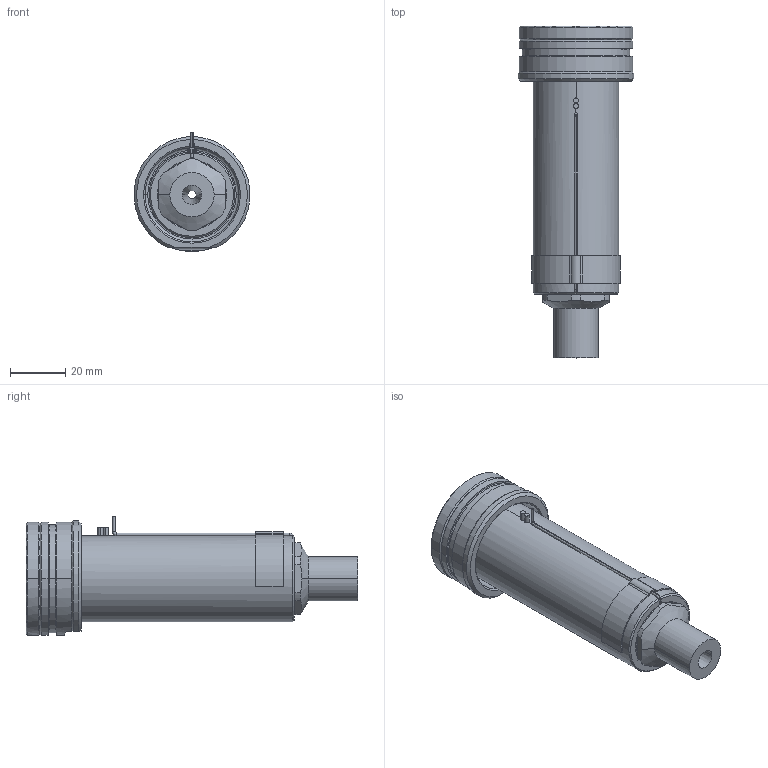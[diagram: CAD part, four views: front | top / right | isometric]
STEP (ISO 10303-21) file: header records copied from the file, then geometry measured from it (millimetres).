
FILE_DESCRIPTION((''),'2;1');
FILE_NAME('EO12_SG_ESG_090_SW','2024-02-19T12:30:25',('sundharh'),(''),'CREO PARAMETRIC BY PTC INC, 2023154','CREO PARAMETRIC BY PTC INC, 2023154','');
FILE_SCHEMA(('CONFIG_CONTROL_DESIGN'));
Length unit declared in the file: millimetre
Products named in the file (1): EO12_SG_ESG_090_SW
Bounding box: 41.85 x 120 x 43 mm (x, y, z)
Volume: 76455.4 mm3; surface area: 22180.4 mm2
Topology: 2 solids, 3 shells, 177 faces, 448 edges, 273 vertices
Faces by surface type: cylinder 65, plane 46, cone 33, torus 27, sphere 3, bspline 3
Entity records: 6010 total; most frequent: CARTESIAN_POINT 1658, DIRECTION 956, ORIENTED_EDGE 888, EDGE_CURVE 444, AXIS2_PLACEMENT_3D 399, VERTEX_POINT 273, CIRCLE 225, EDGE_LOOP 193
